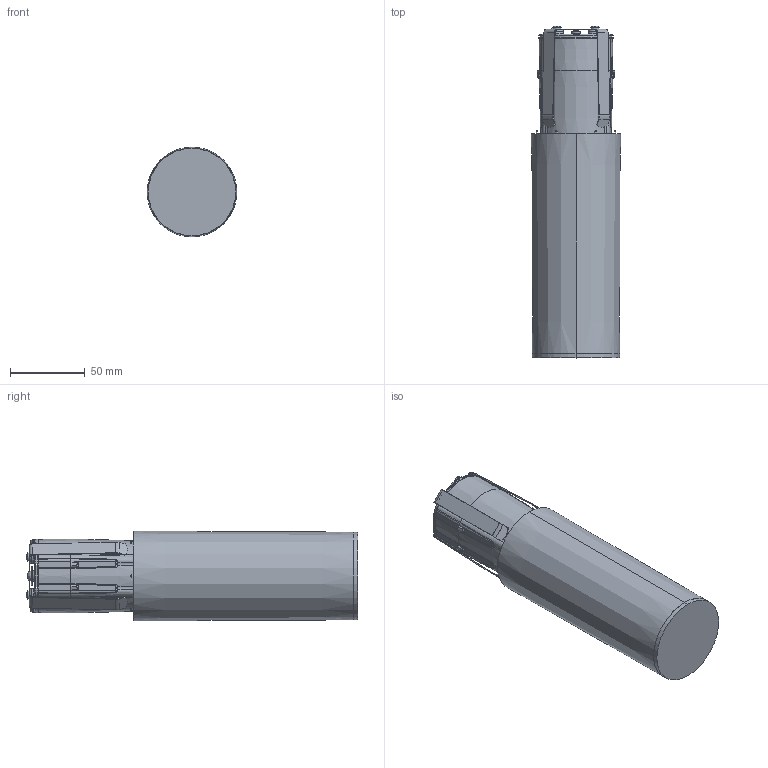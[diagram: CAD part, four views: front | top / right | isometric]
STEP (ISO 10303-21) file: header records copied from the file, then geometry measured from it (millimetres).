
FILE_DESCRIPTION((''),'2;1');
FILE_NAME('LINE-UP_SW0003','2025-06-30T12:20:10',('Piccioli'),(''),'CREO PARAMETRIC BY PTC INC, 2025010','CREO PARAMETRIC BY PTC INC, 2025010','');
FILE_SCHEMA(('CONFIG_CONTROL_DESIGN'));
Length unit declared in the file: millimetre
Products named in the file (1): LINE-UP_SW0003
Bounding box: 60 x 222.05 x 60 mm (x, y, z)
Surface area: 52583 mm2 (no closed solid volume)
Topology: 0 solids, 40 shells, 278 faces, 1047 edges, 794 vertices
Faces by surface type: bspline 62, cylinder 62, cone 58, plane 57, sphere 20, torus 19
Entity records: 16565 total; most frequent: CARTESIAN_POINT 8592, DIRECTION 1554, ORIENTED_EDGE 1472, EDGE_CURVE 1047, VERTEX_POINT 794, AXIS2_PLACEMENT_3D 611, CIRCLE 395, VECTOR 332
